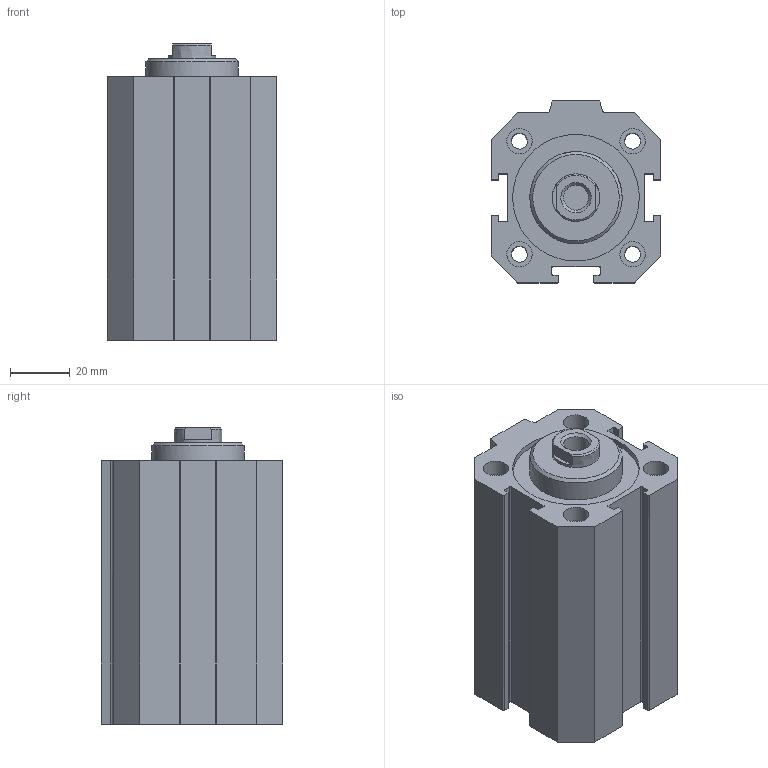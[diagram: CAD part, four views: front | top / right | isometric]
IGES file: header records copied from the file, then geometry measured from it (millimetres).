
Global section: file name: 1511_40_0050; native system: Autodesk Inventor 2014; preprocessor: unknown; author: A. Manieri; date: 20160824.120121; units: millimetre
Bounding box: 57 x 61 x 99.5 mm (x, y, z)
Volume: 197387.8 mm3; surface area: 57014.6 mm2
Topology: 2 solids, 2 shells, 117 faces, 300 edges, 205 vertices
Faces by surface type: bspline 117
